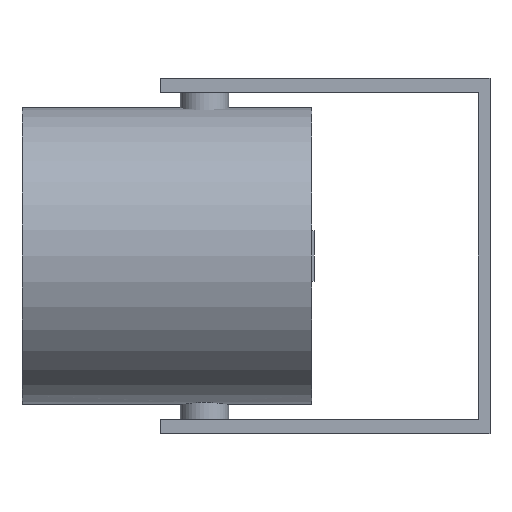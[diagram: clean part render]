
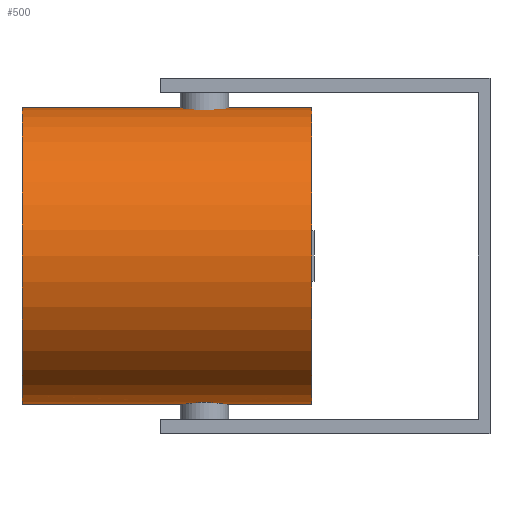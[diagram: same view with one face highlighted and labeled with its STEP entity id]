
A CAD part, left-side view. The second image highlights one B-rep face of the part: STEP entity #500.
In plain terms, the highlighted cylindrical face has radius 88.642 mm (diameter 177.283 mm), a full revolution.
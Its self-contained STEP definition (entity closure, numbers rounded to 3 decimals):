
#27=FACE_BOUND('',#107,.T.);
#28=FACE_BOUND('',#108,.T.);
#73=FACE_OUTER_BOUND('',#106,.T.);
#106=EDGE_LOOP('',(#392,#393,#394,#395));
#107=EDGE_LOOP('',(#396,#397));
#108=EDGE_LOOP('',(#398,#399,#400,#401));
#136=CIRCLE('',#557,88.642);
#137=CIRCLE('',#559,88.642);
#140=CIRCLE('',#566,88.642);
#141=CIRCLE('',#567,88.642);
#165=LINE('',#833,#212);
#166=LINE('',#834,#213);
#168=LINE('',#846,#215);
#212=VECTOR('',#644,10.);
#213=VECTOR('',#645,10.);
#215=VECTOR('',#659,88.642);
#244=B_SPLINE_CURVE_WITH_KNOTS('',3,(#757,#758,#759,#760,#761,#762,#763,
#764,#765,#766,#767,#768,#769,#770,#771,#772,#773,#774),.UNSPECIFIED.,.F.,
 .F.,(4,2,2,2,2,2,2,2,4),(0.,0.546,1.092,1.638,
2.184,2.73,3.275,3.821,4.367),
 .UNSPECIFIED.);
#245=B_SPLINE_CURVE_WITH_KNOTS('',3,(#775,#776,#777,#778,#779,#780,#781,
#782,#783,#784,#785,#786,#787,#788,#789,#790,#791,#792),.UNSPECIFIED.,.F.,
 .F.,(4,2,2,2,2,2,2,2,4),(4.367,4.913,5.459,
6.005,6.551,7.097,7.643,8.189,
8.734),.UNSPECIFIED.);
#246=VERTEX_POINT('',#755);
#247=VERTEX_POINT('',#756);
#257=VERTEX_POINT('',#823);
#258=VERTEX_POINT('',#824);
#259=VERTEX_POINT('',#828);
#260=VERTEX_POINT('',#829);
#263=VERTEX_POINT('',#843);
#264=VERTEX_POINT('',#845);
#289=EDGE_CURVE('',#246,#247,#244,.T.);
#290=EDGE_CURVE('',#247,#246,#245,.T.);
#305=EDGE_CURVE('',#257,#258,#136,.T.);
#307=EDGE_CURVE('',#259,#260,#137,.T.);
#309=EDGE_CURVE('',#260,#257,#165,.T.);
#310=EDGE_CURVE('',#258,#259,#166,.T.);
#314=EDGE_CURVE('',#263,#263,#140,.T.);
#315=EDGE_CURVE('',#263,#264,#168,.T.);
#316=EDGE_CURVE('',#264,#264,#141,.T.);
#392=ORIENTED_EDGE('',*,*,#314,.F.);
#393=ORIENTED_EDGE('',*,*,#315,.T.);
#394=ORIENTED_EDGE('',*,*,#316,.T.);
#395=ORIENTED_EDGE('',*,*,#315,.F.);
#396=ORIENTED_EDGE('',*,*,#289,.T.);
#397=ORIENTED_EDGE('',*,*,#290,.T.);
#398=ORIENTED_EDGE('',*,*,#307,.T.);
#399=ORIENTED_EDGE('',*,*,#309,.T.);
#400=ORIENTED_EDGE('',*,*,#305,.T.);
#401=ORIENTED_EDGE('',*,*,#310,.T.);
#483=CYLINDRICAL_SURFACE('',#565,88.642);
#500=ADVANCED_FACE('',(#73,#27,#28),#483,.T.);
#557=AXIS2_PLACEMENT_3D('',#825,#634,#635);
#559=AXIS2_PLACEMENT_3D('',#830,#639,#640);
#565=AXIS2_PLACEMENT_3D('',#842,#655,#656);
#566=AXIS2_PLACEMENT_3D('',#844,#657,#658);
#567=AXIS2_PLACEMENT_3D('',#847,#660,#661);
#634=DIRECTION('center_axis',(0.,1.,0.));
#635=DIRECTION('ref_axis',(1.,0.,0.));
#639=DIRECTION('center_axis',(0.,-1.,0.));
#640=DIRECTION('ref_axis',(1.,0.,0.));
#644=DIRECTION('',(0.,1.,0.));
#645=DIRECTION('',(0.,-1.,0.));
#655=DIRECTION('center_axis',(0.,1.,0.));
#656=DIRECTION('ref_axis',(1.,0.,0.));
#657=DIRECTION('center_axis',(0.,1.,0.));
#658=DIRECTION('ref_axis',(1.,0.,0.));
#659=DIRECTION('',(0.,-1.,0.));
#660=DIRECTION('center_axis',(0.,1.,0.));
#661=DIRECTION('ref_axis',(1.,0.,0.));
#755=CARTESIAN_POINT('',(14.464,64.068,-87.454));
#756=CARTESIAN_POINT('',(-14.464,64.068,-87.454));
#757=CARTESIAN_POINT('Ctrl Pts',(14.464,64.068,-87.454));
#758=CARTESIAN_POINT('Ctrl Pts',(14.464,65.888,-87.454));
#759=CARTESIAN_POINT('Ctrl Pts',(14.1,67.826,-87.516));
#760=CARTESIAN_POINT('Ctrl Pts',(12.623,71.389,-87.742));
#761=CARTESIAN_POINT('Ctrl Pts',(11.51,73.013,-87.901));
#762=CARTESIAN_POINT('Ctrl Pts',(8.946,75.578,-88.199));
#763=CARTESIAN_POINT('Ctrl Pts',(7.321,76.691,-88.357));
#764=CARTESIAN_POINT('Ctrl Pts',(3.758,78.168,-88.58));
#765=CARTESIAN_POINT('Ctrl Pts',(1.82,78.532,-88.642));
#766=CARTESIAN_POINT('Ctrl Pts',(-1.82,78.532,-88.642));
#767=CARTESIAN_POINT('Ctrl Pts',(-3.758,78.168,-88.58));
#768=CARTESIAN_POINT('Ctrl Pts',(-7.321,76.691,-88.357));
#769=CARTESIAN_POINT('Ctrl Pts',(-8.946,75.578,-88.199));
#770=CARTESIAN_POINT('Ctrl Pts',(-11.51,73.013,-87.901));
#771=CARTESIAN_POINT('Ctrl Pts',(-12.623,71.389,-87.742));
#772=CARTESIAN_POINT('Ctrl Pts',(-14.1,67.826,-87.516));
#773=CARTESIAN_POINT('Ctrl Pts',(-14.464,65.888,-87.454));
#774=CARTESIAN_POINT('Ctrl Pts',(-14.464,64.068,-87.454));
#775=CARTESIAN_POINT('Ctrl Pts',(-14.464,64.068,-87.454));
#776=CARTESIAN_POINT('Ctrl Pts',(-14.464,62.248,-87.454));
#777=CARTESIAN_POINT('Ctrl Pts',(-14.1,60.309,-87.516));
#778=CARTESIAN_POINT('Ctrl Pts',(-12.623,56.747,-87.742));
#779=CARTESIAN_POINT('Ctrl Pts',(-11.51,55.122,-87.901));
#780=CARTESIAN_POINT('Ctrl Pts',(-8.946,52.558,-88.199));
#781=CARTESIAN_POINT('Ctrl Pts',(-7.321,51.445,-88.357));
#782=CARTESIAN_POINT('Ctrl Pts',(-3.758,49.968,-88.58));
#783=CARTESIAN_POINT('Ctrl Pts',(-1.82,49.603,-88.642));
#784=CARTESIAN_POINT('Ctrl Pts',(1.82,49.603,-88.642));
#785=CARTESIAN_POINT('Ctrl Pts',(3.758,49.968,-88.58));
#786=CARTESIAN_POINT('Ctrl Pts',(7.321,51.445,-88.357));
#787=CARTESIAN_POINT('Ctrl Pts',(8.946,52.558,-88.199));
#788=CARTESIAN_POINT('Ctrl Pts',(11.51,55.122,-87.901));
#789=CARTESIAN_POINT('Ctrl Pts',(12.623,56.747,-87.742));
#790=CARTESIAN_POINT('Ctrl Pts',(14.1,60.309,-87.516));
#791=CARTESIAN_POINT('Ctrl Pts',(14.464,62.248,-87.454));
#792=CARTESIAN_POINT('Ctrl Pts',(14.464,64.068,-87.454));
#823=CARTESIAN_POINT('',(75.247,123.757,46.853));
#824=CARTESIAN_POINT('',(75.247,123.757,-46.853));
#825=CARTESIAN_POINT('Origin',(0.,123.757,0.));
#828=CARTESIAN_POINT('',(75.247,21.,-46.853));
#829=CARTESIAN_POINT('',(75.247,21.,46.853));
#830=CARTESIAN_POINT('Origin',(0.,21.,0.));
#833=CARTESIAN_POINT('',(75.247,0.,46.853));
#834=CARTESIAN_POINT('',(75.247,0.,-46.853));
#842=CARTESIAN_POINT('Origin',(0.,0.,
0.));
#843=CARTESIAN_POINT('',(-88.642,173.,0.));
#844=CARTESIAN_POINT('Origin',(0.,173.,0.));
#845=CARTESIAN_POINT('',(-88.642,0.,0.));
#846=CARTESIAN_POINT('',(-88.642,0.,0.));
#847=CARTESIAN_POINT('Origin',(0.,0.,
0.));
